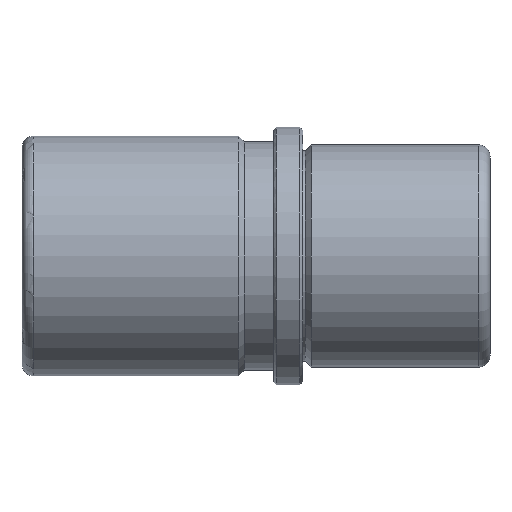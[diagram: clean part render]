
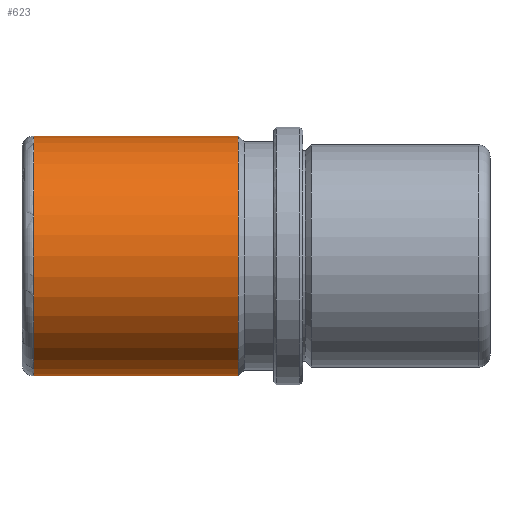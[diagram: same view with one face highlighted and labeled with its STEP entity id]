
A CAD part, front view. The second image highlights one B-rep face of the part: STEP entity #623.
In plain terms, the highlighted cylindrical face has radius 20.5 mm (diameter 41 mm), a partial arc.
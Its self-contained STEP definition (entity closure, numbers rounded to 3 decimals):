
#398=CARTESIAN_POINT('Line Origine',(32.,0.,20.5)) ;
#402=CARTESIAN_POINT('Vertex',(-11.,0.,20.5)) ;
#404=CARTESIAN_POINT('Vertex',(-46.,0.,20.5)) ;
#418=CARTESIAN_POINT('Vertex',(-11.,0.,-20.5)) ;
#421=CARTESIAN_POINT('Line Origine',(32.,0.,-20.5)) ;
#425=CARTESIAN_POINT('Vertex',(-46.,0.,-20.5)) ;
#586=CARTESIAN_POINT('Axis2P3D Location',(32.,0.,0.)) ;
#591=CARTESIAN_POINT('Axis2P3D Location',(-11.,0.,0.)) ;
#595=CARTESIAN_POINT('Vertex',(-11.,-20.5,0.)) ;
#598=CARTESIAN_POINT('Axis2P3D Location',(-11.,0.,0.)) ;
#603=CARTESIAN_POINT('Axis2P3D Location',(-46.,0.,0.)) ;
#607=CARTESIAN_POINT('Vertex',(-46.,-20.5,0.)) ;
#610=CARTESIAN_POINT('Axis2P3D Location',(-46.,0.,0.)) ;
#399=DIRECTION('Vector Direction',(-1.,0.,0.)) ;
#422=DIRECTION('Vector Direction',(-1.,0.,0.)) ;
#587=DIRECTION('Axis2P3D Direction',(-1.,-0.,-0.)) ;
#588=DIRECTION('Axis2P3D XDirection',(0.,0.,-1.)) ;
#592=DIRECTION('Axis2P3D Direction',(-1.,-0.,-0.)) ;
#599=DIRECTION('Axis2P3D Direction',(-1.,-0.,-0.)) ;
#604=DIRECTION('Axis2P3D Direction',(-1.,-0.,-0.)) ;
#611=DIRECTION('Axis2P3D Direction',(-1.,-0.,-0.)) ;
#589=AXIS2_PLACEMENT_3D('Cylinder Axis2P3D',#586,#587,#588) ;
#593=AXIS2_PLACEMENT_3D('Circle Axis2P3D',#591,#592,$) ;
#600=AXIS2_PLACEMENT_3D('Circle Axis2P3D',#598,#599,$) ;
#605=AXIS2_PLACEMENT_3D('Circle Axis2P3D',#603,#604,$) ;
#612=AXIS2_PLACEMENT_3D('Circle Axis2P3D',#610,#611,$) ;
#616=ORIENTED_EDGE('',*,*,#427,.T.) ;
#617=ORIENTED_EDGE('',*,*,#597,.F.) ;
#618=ORIENTED_EDGE('',*,*,#602,.F.) ;
#619=ORIENTED_EDGE('',*,*,#406,.T.) ;
#620=ORIENTED_EDGE('',*,*,#609,.T.) ;
#621=ORIENTED_EDGE('',*,*,#614,.T.) ;
#400=VECTOR('Line Direction',#399,1.) ;
#423=VECTOR('Line Direction',#422,1.) ;
#623=ADVANCED_FACE('FAMO-SF1-D25 x 80',(#622),#590,.T.) ;
#594=CIRCLE('generated circle',#593,20.5) ;
#601=CIRCLE('generated circle',#600,20.5) ;
#606=CIRCLE('generated circle',#605,20.5) ;
#613=CIRCLE('generated circle',#612,20.5) ;
#590=CYLINDRICAL_SURFACE('generated cylinder',#589,20.5) ;
#406=EDGE_CURVE('',#403,#405,#401,.T.) ;
#427=EDGE_CURVE('',#426,#419,#424,.F.) ;
#597=EDGE_CURVE('',#596,#419,#594,.F.) ;
#602=EDGE_CURVE('',#403,#596,#601,.F.) ;
#609=EDGE_CURVE('',#405,#608,#606,.F.) ;
#614=EDGE_CURVE('',#608,#426,#613,.F.) ;
#615=EDGE_LOOP('',(#616,#617,#618,#619,#620,#621)) ;
#622=FACE_OUTER_BOUND('',#615,.T.) ;
#401=LINE('Line',#398,#400) ;
#424=LINE('Line',#421,#423) ;
#403=VERTEX_POINT('',#402) ;
#405=VERTEX_POINT('',#404) ;
#419=VERTEX_POINT('',#418) ;
#426=VERTEX_POINT('',#425) ;
#596=VERTEX_POINT('',#595) ;
#608=VERTEX_POINT('',#607) ;
